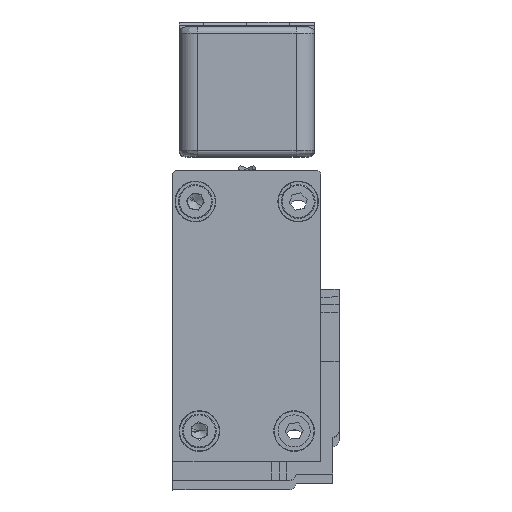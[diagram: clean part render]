
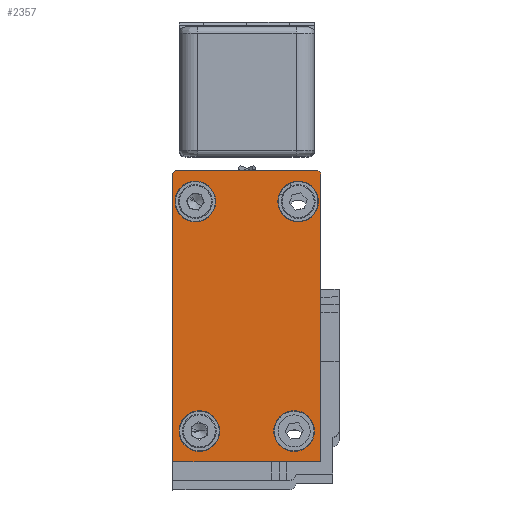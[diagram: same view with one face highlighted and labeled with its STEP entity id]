
A CAD part, top view. The second image highlights one B-rep face of the part: STEP entity #2357.
In plain terms, the highlighted planar face has unit normal (0, 0, 1).
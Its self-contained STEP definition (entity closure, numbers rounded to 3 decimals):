
#73 = DIRECTION ( 'NONE',  ( 0., 0., -1. ) ) ;
#318 = EDGE_CURVE ( 'NONE', #19484, #30451, #31142, .T. ) ;
#447 = DIRECTION ( 'NONE',  ( -1., 0., 0. ) ) ;
#947 = CARTESIAN_POINT ( 'NONE',  ( 5.984, 25.871, 3185. ) ) ;
#1046 = CARTESIAN_POINT ( 'NONE',  ( -17.514, 25.871, 3185. ) ) ;
#1209 = VERTEX_POINT ( 'NONE', #24167 ) ;
#1424 = LINE ( 'NONE', #4705, #25652 ) ;
#1744 = VERTEX_POINT ( 'NONE', #19187 ) ;
#1897 = DIRECTION ( 'NONE',  ( 0., 1., 0. ) ) ;
#1912 = EDGE_LOOP ( 'NONE', ( #11034, #18515 ) ) ;
#2224 = CARTESIAN_POINT ( 'NONE',  ( -14.365, 21.401, 3185. ) ) ;
#2348 = CIRCLE ( 'NONE', #4955, 3.302 ) ;
#2357 = ADVANCED_FACE ( 'NONE', ( #18702, #17962, #24413, #28008, #21592 ), #29825, .T. ) ;
#2368 = DIRECTION ( 'NONE',  ( 0., 0., -1. ) ) ;
#2599 = ORIENTED_EDGE ( 'NONE', *, *, #24216, .F. ) ;
#2847 = DIRECTION ( 'NONE',  ( 0., 0., -1. ) ) ;
#3014 = AXIS2_PLACEMENT_3D ( 'NONE', #5797, #22715, #8222 ) ;
#3457 = ORIENTED_EDGE ( 'NONE', *, *, #18545, .T. ) ;
#3472 = DIRECTION ( 'NONE',  ( 0., 1., 0. ) ) ;
#3629 = CARTESIAN_POINT ( 'NONE',  ( 5.984, 7.11, 3185. ) ) ;
#4097 = VERTEX_POINT ( 'NONE', #17148 ) ;
#4273 = CARTESIAN_POINT ( 'NONE',  ( 4.978, -15.887, 3185. ) ) ;
#4530 = ORIENTED_EDGE ( 'NONE', *, *, #31113, .T. ) ;
#4617 = DIRECTION ( 'NONE',  ( -1., 0., 0. ) ) ;
#4705 = CARTESIAN_POINT ( 'NONE',  ( 5.984, 7.11, 3185. ) ) ;
#4917 = EDGE_CURVE ( 'NONE', #1209, #7903, #30875, .T. ) ;
#4955 = AXIS2_PLACEMENT_3D ( 'NONE', #2224, #19116, #4617 ) ;
#4960 = CARTESIAN_POINT ( 'NONE',  ( -0.967, 21.401, 3185. ) ) ;
#5187 = EDGE_CURVE ( 'NONE', #21937, #1209, #25578, .T. ) ;
#5797 = CARTESIAN_POINT ( 'NONE',  ( -18.014, -20.888, 3185. ) ) ;
#6003 = ORIENTED_EDGE ( 'NONE', *, *, #22395, .T. ) ;
#6493 = VERTEX_POINT ( 'NONE', #15059 ) ;
#6665 = VERTEX_POINT ( 'NONE', #30961 ) ;
#7336 = ORIENTED_EDGE ( 'NONE', *, *, #31127, .T. ) ;
#7512 = DIRECTION ( 'NONE',  ( 0., 0., -1. ) ) ;
#7633 = VERTEX_POINT ( 'NONE', #8588 ) ;
#7700 = ORIENTED_EDGE ( 'NONE', *, *, #12477, .T. ) ;
#7903 = VERTEX_POINT ( 'NONE', #18949 ) ;
#8023 = VECTOR ( 'NONE', #12014, 1000. ) ;
#8222 = DIRECTION ( 'NONE',  ( -1., 0., 0. ) ) ;
#8588 = CARTESIAN_POINT ( 'NONE',  ( -18.014, 25.871, 3185. ) ) ;
#8646 = EDGE_LOOP ( 'NONE', ( #7700, #9292 ) ) ;
#9032 = EDGE_CURVE ( 'NONE', #30451, #19484, #28518, .T. ) ;
#9168 = ORIENTED_EDGE ( 'NONE', *, *, #24724, .T. ) ;
#9212 = DIRECTION ( 'NONE',  ( 0., 0., -1. ) ) ;
#9292 = ORIENTED_EDGE ( 'NONE', *, *, #20779, .T. ) ;
#9663 = CARTESIAN_POINT ( 'NONE',  ( -13.714, -15.887, 3185. ) ) ;
#9907 = AXIS2_PLACEMENT_3D ( 'NONE', #23728, #9212, #26153 ) ;
#9920 = AXIS2_PLACEMENT_3D ( 'NONE', #9663, #26620, #12114 ) ;
#10136 = EDGE_CURVE ( 'NONE', #10608, #6665, #23082, .T. ) ;
#10608 = VERTEX_POINT ( 'NONE', #16262 ) ;
#11034 = ORIENTED_EDGE ( 'NONE', *, *, #9032, .T. ) ;
#11355 = EDGE_LOOP ( 'NONE', ( #9168, #6003 ) ) ;
#11470 = VERTEX_POINT ( 'NONE', #25020 ) ;
#11589 = DIRECTION ( 'NONE',  ( -1., 0., 0. ) ) ;
#11646 = AXIS2_PLACEMENT_3D ( 'NONE', #14551, #73, #16975 ) ;
#11734 = ORIENTED_EDGE ( 'NONE', *, *, #16534, .T. ) ;
#11937 = VECTOR ( 'NONE', #30653, 1000. ) ;
#12014 = DIRECTION ( 'NONE',  ( 0., 1., 0. ) ) ;
#12114 = DIRECTION ( 'NONE',  ( -1., 0., 0. ) ) ;
#12477 = EDGE_CURVE ( 'NONE', #6493, #26829, #30414, .T. ) ;
#13619 = ORIENTED_EDGE ( 'NONE', *, *, #4917, .T. ) ;
#13685 = CARTESIAN_POINT ( 'NONE',  ( -18.014, 25.871, 3185. ) ) ;
#13914 = AXIS2_PLACEMENT_3D ( 'NONE', #17325, #2847, #19751 ) ;
#14444 = CIRCLE ( 'NONE', #11646, 3.302 ) ;
#14551 = CARTESIAN_POINT ( 'NONE',  ( 1.676, -15.887, 3185. ) ) ;
#14937 = DIRECTION ( 'NONE',  ( 0., 0., -1. ) ) ;
#15059 = CARTESIAN_POINT ( 'NONE',  ( -17.017, -15.887, 3185. ) ) ;
#16262 = CARTESIAN_POINT ( 'NONE',  ( -18.014, -20.888, 3185. ) ) ;
#16346 = DIRECTION ( 'NONE',  ( 0., 0., 1. ) ) ;
#16534 = EDGE_CURVE ( 'NONE', #27795, #21937, #1424, .T. ) ;
#16813 = CARTESIAN_POINT ( 'NONE',  ( 1.676, -15.887, 3185. ) ) ;
#16975 = DIRECTION ( 'NONE',  ( -1., 0., 0. ) ) ;
#17148 = CARTESIAN_POINT ( 'NONE',  ( -17.667, 21.401, 3185. ) ) ;
#17325 = CARTESIAN_POINT ( 'NONE',  ( -14.365, 21.401, 3185. ) ) ;
#17378 = DIRECTION ( 'NONE',  ( 1., 0., 0. ) ) ;
#17893 = CIRCLE ( 'NONE', #27846, 3.302 ) ;
#17962 = FACE_BOUND ( 'NONE', #1912, .T. ) ;
#17991 = DIRECTION ( 'NONE',  ( 0., 0., -1. ) ) ;
#18515 = ORIENTED_EDGE ( 'NONE', *, *, #318, .T. ) ;
#18545 = EDGE_CURVE ( 'NONE', #7633, #10608, #24865, .T. ) ;
#18702 = FACE_BOUND ( 'NONE', #11355, .T. ) ;
#18949 = CARTESIAN_POINT ( 'NONE',  ( -17.514, 26.371, 3185. ) ) ;
#19116 = DIRECTION ( 'NONE',  ( 0., 0., -1. ) ) ;
#19187 = CARTESIAN_POINT ( 'NONE',  ( -1.626, -15.887, 3185. ) ) ;
#19203 = DIRECTION ( 'NONE',  ( 0., 1., 0. ) ) ;
#19266 = DIRECTION ( 'NONE',  ( -1., 0., 0. ) ) ;
#19484 = VERTEX_POINT ( 'NONE', #20072 ) ;
#19751 = DIRECTION ( 'NONE',  ( -1., 0., 0. ) ) ;
#20072 = CARTESIAN_POINT ( 'NONE',  ( 5.637, 21.401, 3185. ) ) ;
#20372 = AXIS2_PLACEMENT_3D ( 'NONE', #29417, #14937, #447 ) ;
#20779 = EDGE_CURVE ( 'NONE', #26829, #6493, #28705, .T. ) ;
#20877 = LINE ( 'NONE', #24105, #8023 ) ;
#21008 = AXIS2_PLACEMENT_3D ( 'NONE', #22036, #7512, #24487 ) ;
#21592 = FACE_OUTER_BOUND ( 'NONE', #26573, .T. ) ;
#21937 = VERTEX_POINT ( 'NONE', #947 ) ;
#22036 = CARTESIAN_POINT ( 'NONE',  ( -13.714, -15.887, 3185. ) ) ;
#22395 = EDGE_CURVE ( 'NONE', #11470, #4097, #2348, .T. ) ;
#22715 = DIRECTION ( 'NONE',  ( 0., 0., 1. ) ) ;
#22953 = AXIS2_PLACEMENT_3D ( 'NONE', #30870, #16346, #1897 ) ;
#23082 = LINE ( 'NONE', #29437, #28787 ) ;
#23728 = CARTESIAN_POINT ( 'NONE',  ( 2.335, 21.401, 3185. ) ) ;
#24105 = CARTESIAN_POINT ( 'NONE',  ( 5.984, -20.888, 3185. ) ) ;
#24167 = CARTESIAN_POINT ( 'NONE',  ( 5.485, 26.371, 3185. ) ) ;
#24216 = EDGE_CURVE ( 'NONE', #7633, #7903, #30540, .T. ) ;
#24413 = FACE_BOUND ( 'NONE', #30053, .T. ) ;
#24487 = DIRECTION ( 'NONE',  ( -1., 0., 0. ) ) ;
#24489 = VECTOR ( 'NONE', #11589, 1000. ) ;
#24724 = EDGE_CURVE ( 'NONE', #4097, #11470, #29005, .T. ) ;
#24810 = ORIENTED_EDGE ( 'NONE', *, *, #29747, .T. ) ;
#24865 = LINE ( 'NONE', #13685, #11937 ) ;
#25020 = CARTESIAN_POINT ( 'NONE',  ( -11.063, 21.401, 3185. ) ) ;
#25578 = CIRCLE ( 'NONE', #22953, 0.5 ) ;
#25652 = VECTOR ( 'NONE', #19203, 1000. ) ;
#25749 = CARTESIAN_POINT ( 'NONE',  ( -10.412, -15.887, 3185. ) ) ;
#26153 = DIRECTION ( 'NONE',  ( -1., 0., 0. ) ) ;
#26456 = ORIENTED_EDGE ( 'NONE', *, *, #5187, .T. ) ;
#26573 = EDGE_LOOP ( 'NONE', ( #4530, #11734, #26456, #13619, #2599, #3457, #30056 ) ) ;
#26620 = DIRECTION ( 'NONE',  ( 0., 0., -1. ) ) ;
#26829 = VERTEX_POINT ( 'NONE', #25749 ) ;
#27795 = VERTEX_POINT ( 'NONE', #3629 ) ;
#27846 = AXIS2_PLACEMENT_3D ( 'NONE', #16813, #2368, #19266 ) ;
#28008 = FACE_BOUND ( 'NONE', #8646, .T. ) ;
#28518 = CIRCLE ( 'NONE', #9907, 3.302 ) ;
#28705 = CIRCLE ( 'NONE', #21008, 3.302 ) ;
#28787 = VECTOR ( 'NONE', #17378, 1000. ) ;
#29005 = CIRCLE ( 'NONE', #13914, 3.302 ) ;
#29417 = CARTESIAN_POINT ( 'NONE',  ( 2.335, 21.401, 3185. ) ) ;
#29437 = CARTESIAN_POINT ( 'NONE',  ( -18.014, -20.888, 3185. ) ) ;
#29747 = EDGE_CURVE ( 'NONE', #1744, #31011, #17893, .T. ) ;
#29779 = AXIS2_PLACEMENT_3D ( 'NONE', #1046, #17991, #3472 ) ;
#29825 = PLANE ( 'NONE',  #3014 ) ;
#30053 = EDGE_LOOP ( 'NONE', ( #24810, #7336 ) ) ;
#30056 = ORIENTED_EDGE ( 'NONE', *, *, #10136, .T. ) ;
#30414 = CIRCLE ( 'NONE', #9920, 3.302 ) ;
#30451 = VERTEX_POINT ( 'NONE', #4960 ) ;
#30540 = CIRCLE ( 'NONE', #29779, 0.5 ) ;
#30653 = DIRECTION ( 'NONE',  ( 0., -1., 0. ) ) ;
#30739 = CARTESIAN_POINT ( 'NONE',  ( 5.485, 26.371, 3185. ) ) ;
#30870 = CARTESIAN_POINT ( 'NONE',  ( 5.485, 25.871, 3185. ) ) ;
#30875 = LINE ( 'NONE', #30739, #24489 ) ;
#30961 = CARTESIAN_POINT ( 'NONE',  ( 5.984, -20.888, 3185. ) ) ;
#31011 = VERTEX_POINT ( 'NONE', #4273 ) ;
#31113 = EDGE_CURVE ( 'NONE', #6665, #27795, #20877, .T. ) ;
#31127 = EDGE_CURVE ( 'NONE', #31011, #1744, #14444, .T. ) ;
#31142 = CIRCLE ( 'NONE', #20372, 3.302 ) ;
